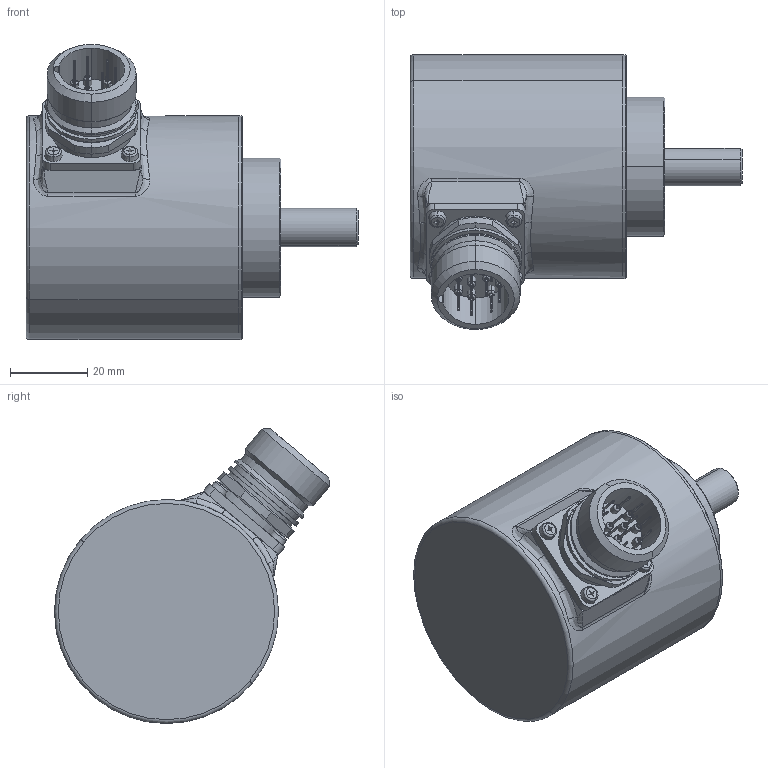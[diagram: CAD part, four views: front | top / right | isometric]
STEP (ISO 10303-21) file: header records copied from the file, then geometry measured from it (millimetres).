
FILE_DESCRIPTION (( 'STEP AP203' ), '1' );
FILE_NAME ('8.5804.12X5.XXXX.STEP', '2012-01-19T06:40:32', ( 'Hodot' ), ( 'Kuebler' ), 'SwSTEP 2.0', 'SolidWorks 2009', '' );
FILE_SCHEMA (( 'CONFIG_CONTROL_DESIGN' ));
Length unit declared in the file: millimetre
Products named in the file (1): 8.5804.12X5.XXXX
Bounding box: 85.95 x 71.23 x 76.41 mm (x, y, z)
Volume: 59229.6 mm3; surface area: 50740 mm2
Topology: 22 solids, 24 shells, 763 faces, 1742 edges, 1063 vertices
Faces by surface type: cylinder 340, plane 182, cone 115, torus 58, sphere 44, bspline 24
Entity records: 25478 total; most frequent: CARTESIAN_POINT 8083, DIRECTION 3969, ORIENTED_EDGE 3308, AXIS2_PLACEMENT_3D 1683, EDGE_CURVE 1654, VERTEX_POINT 1033, CIRCLE 943, EDGE_LOOP 929
